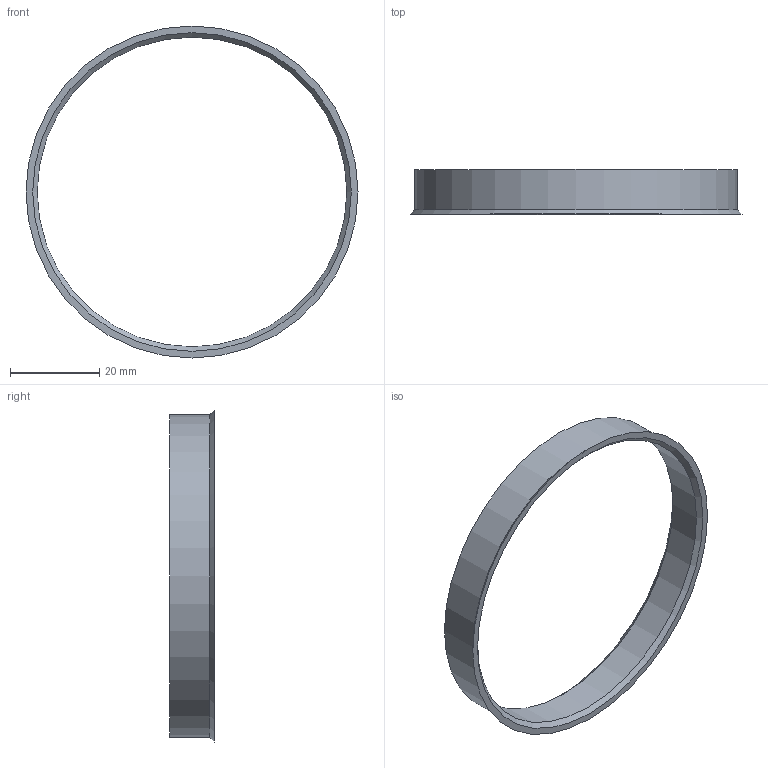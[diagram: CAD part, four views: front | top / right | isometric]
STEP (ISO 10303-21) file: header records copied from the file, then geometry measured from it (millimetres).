
FILE_DESCRIPTION(/* description */ (''),/* implementation_level */ '2;1');
FILE_NAME(/* name */ 'G:\CAD Library\Team Tasks\DIPP\11th Intake\Bradley Coles\Design Drafting\Random\Hub Rings\ipt\HubRing_72.6-69.6.stp',/* time_stamp */ '2025-07-22T13:45:25+08:00',/* author */ ('BCOLES'),/* organization */ (''),/* preprocessor_version */ 'ST-DEVELOPER v18.1',/* originating_system */ 'Autodesk Inventor 2022',/* authorisation */ '');
FILE_SCHEMA (('AUTOMOTIVE_DESIGN { 1 0 10303 214 3 1 1 }'));
Length unit declared in the file: millimetre
Products named in the file (1): HubRing_72.6-69.6
Bounding box: 74.6 x 10 x 74.6 mm (x, y, z)
Volume: 3105.7 mm3; surface area: 5151.6 mm2
Topology: 1 solids, 1 shells, 6 faces, 13 edges, 8 vertices
Faces by surface type: cone 3, cylinder 2, plane 1
Full cylindrical faces by diameter (mm): 69.6 x1, 72.6 x1
Entity records: 216 total; most frequent: DIRECTION 35, CARTESIAN_POINT 28, ORIENTED_EDGE 26, AXIS2_PLACEMENT_3D 15, EDGE_CURVE 13, CIRCLE 8, VERTEX_POINT 8, EDGE_LOOP 7
